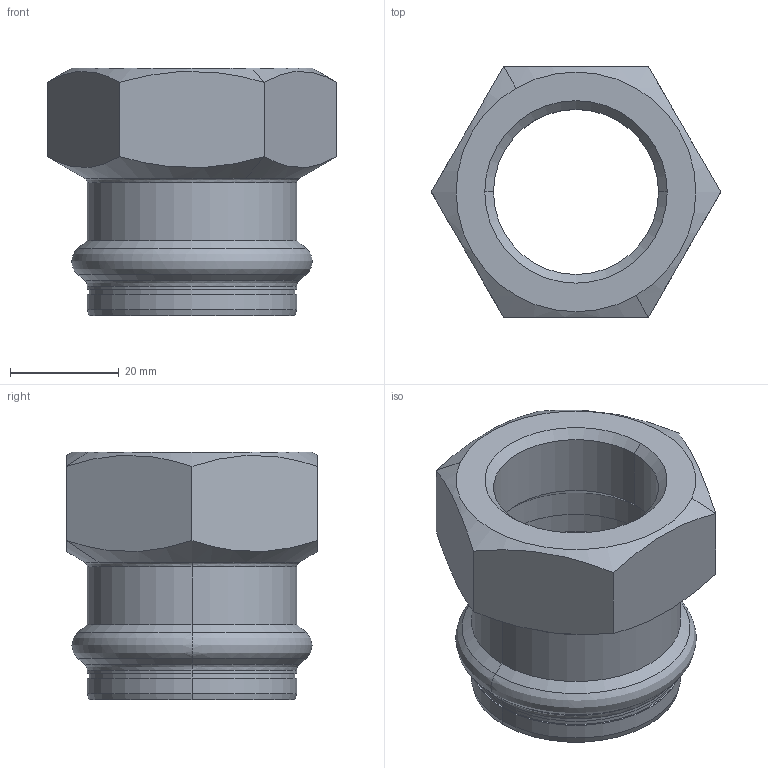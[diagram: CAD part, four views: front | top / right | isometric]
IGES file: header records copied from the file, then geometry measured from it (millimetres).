
Start section: Elysium IGES Interface
Global section: file name: F:\3d modellen sudo\S-Pr VP\SP6270GV\6270GVW351.igs; native system: CoCreate Modeling 17.00A  17-Jun-2010; preprocessor: CoCreate IGES_3D V2.2; author: Unknown; organization: Unknown; date: 20130128.114930; units: millimetre
Bounding box: 53.12 x 46 x 45.5 mm (x, y, z)
Volume: 26628.3 mm3; surface area: 13261.8 mm2
Topology: 1 solids, 1 shells, 54 faces, 120 edges, 70 vertices
Faces by surface type: bspline 54
